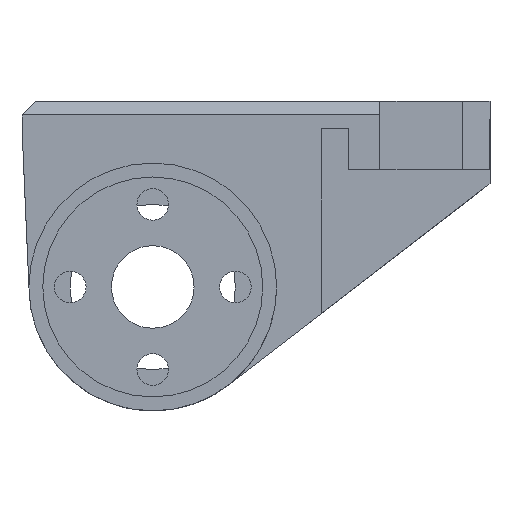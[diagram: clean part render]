
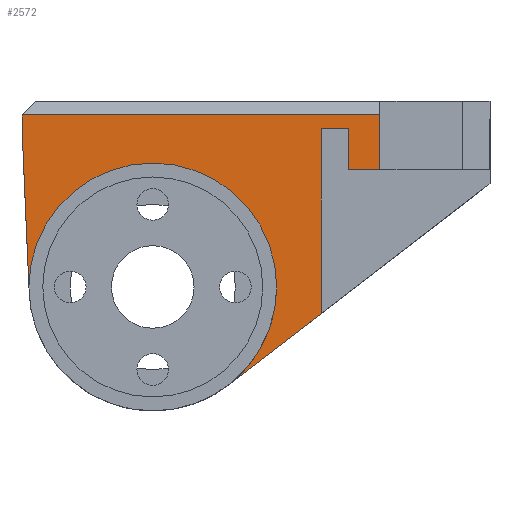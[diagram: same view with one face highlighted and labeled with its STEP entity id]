
A CAD part, front view. The second image highlights one B-rep face of the part: STEP entity #2572.
In plain terms, the highlighted planar face has unit normal (0, -1, 0).
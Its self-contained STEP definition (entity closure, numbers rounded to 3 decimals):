
#40 = VECTOR ( 'NONE', #47, 1000. ) ;
#47 = DIRECTION ( 'NONE',  ( -1., 0., 0. ) ) ;
#48 = ORIENTED_EDGE ( 'NONE', *, *, #455, .F. ) ;
#80 = VECTOR ( 'NONE', #154, 1000. ) ;
#142 = EDGE_CURVE ( 'NONE', #592, #2271, #1360, .T. ) ;
#151 = EDGE_LOOP ( 'NONE', ( #2108, #1454, #1436, #48, #651, #1042, #237, #1218, #834, #1567, #335 ) ) ;
#154 = DIRECTION ( 'NONE',  ( -1., 0., 0. ) ) ;
#184 = FACE_OUTER_BOUND ( 'NONE', #151, .T. ) ;
#221 = CARTESIAN_POINT ( 'NONE',  ( 6.73, -14., -4. ) ) ;
#237 = ORIENTED_EDGE ( 'NONE', *, *, #142, .F. ) ;
#301 = DIRECTION ( 'NONE',  ( 1., 0., 0. ) ) ;
#335 = ORIENTED_EDGE ( 'NONE', *, *, #2607, .F. ) ;
#392 = PLANE ( 'NONE',  #541 ) ;
#398 = VECTOR ( 'NONE', #2440, 1000. ) ;
#400 = VECTOR ( 'NONE', #2756, 1000. ) ;
#422 = VERTEX_POINT ( 'NONE', #1936 ) ;
#431 = EDGE_CURVE ( 'NONE', #766, #1358, #1114, .T. ) ;
#455 = EDGE_CURVE ( 'NONE', #1358, #1300, #2736, .T. ) ;
#478 = VERTEX_POINT ( 'NONE', #2606 ) ;
#488 = DIRECTION ( 'NONE',  ( -1., 0., 0. ) ) ;
#498 = AXIS2_PLACEMENT_3D ( 'NONE', #2459, #2671, #301 ) ;
#524 = EDGE_CURVE ( 'NONE', #1630, #1181, #675, .T. ) ;
#541 = AXIS2_PLACEMENT_3D ( 'NONE', #1118, #1746, #488 ) ;
#592 = VERTEX_POINT ( 'NONE', #2002 ) ;
#607 = CARTESIAN_POINT ( 'NONE',  ( -7.5, -14., 0. ) ) ;
#613 = LINE ( 'NONE', #1904, #400 ) ;
#636 = DIRECTION ( 'NONE',  ( 0., -1., 0. ) ) ;
#651 = ORIENTED_EDGE ( 'NONE', *, *, #431, .F. ) ;
#656 = CARTESIAN_POINT ( 'NONE',  ( -17., -14., -1. ) ) ;
#675 = LINE ( 'NONE', #1765, #2768 ) ;
#743 = CARTESIAN_POINT ( 'NONE',  ( -7.5, -14., -1. ) ) ;
#747 = CARTESIAN_POINT ( 'NONE',  ( -17., -14., -1. ) ) ;
#754 = EDGE_CURVE ( 'NONE', #422, #2351, #2564, .T. ) ;
#766 = VERTEX_POINT ( 'NONE', #1484 ) ;
#775 = EDGE_CURVE ( 'NONE', #478, #592, #613, .T. ) ;
#817 = LINE ( 'NONE', #607, #80 ) ;
#834 = ORIENTED_EDGE ( 'NONE', *, *, #2263, .F. ) ;
#1042 = ORIENTED_EDGE ( 'NONE', *, *, #2625, .F. ) ;
#1114 = CIRCLE ( 'NONE', #1783, 9. ) ;
#1118 = CARTESIAN_POINT ( 'NONE',  ( -7.5, -14., -12.5 ) ) ;
#1140 = CARTESIAN_POINT ( 'NONE',  ( -2.011, -14., -19.632 ) ) ;
#1152 = CARTESIAN_POINT ( 'NONE',  ( 17., -14., -5. ) ) ;
#1181 = VERTEX_POINT ( 'NONE', #1646 ) ;
#1218 = ORIENTED_EDGE ( 'NONE', *, *, #775, .F. ) ;
#1278 = DIRECTION ( 'NONE',  ( 1., 0., 0. ) ) ;
#1300 = VERTEX_POINT ( 'NONE', #1543 ) ;
#1304 = DIRECTION ( 'NONE',  ( -0.043, 0., 0.999 ) ) ;
#1358 = VERTEX_POINT ( 'NONE', #1971 ) ;
#1360 = LINE ( 'NONE', #1152, #2586 ) ;
#1436 = ORIENTED_EDGE ( 'NONE', *, *, #2623, .F. ) ;
#1454 = ORIENTED_EDGE ( 'NONE', *, *, #2046, .T. ) ;
#1456 = CARTESIAN_POINT ( 'NONE',  ( -7.5, -14., -12.5 ) ) ;
#1468 = VECTOR ( 'NONE', #1304, 1000. ) ;
#1476 = CIRCLE ( 'NONE', #498, 9. ) ;
#1484 = CARTESIAN_POINT ( 'NONE',  ( 1.5, -14., -12.5 ) ) ;
#1543 = CARTESIAN_POINT ( 'NONE',  ( -17., -14., -1. ) ) ;
#1563 = VERTEX_POINT ( 'NONE', #2054 ) ;
#1567 = ORIENTED_EDGE ( 'NONE', *, *, #754, .F. ) ;
#1630 = VERTEX_POINT ( 'NONE', #2752 ) ;
#1646 = CARTESIAN_POINT ( 'NONE',  ( 9., -14., -4. ) ) ;
#1679 = LINE ( 'NONE', #1985, #40 ) ;
#1746 = DIRECTION ( 'NONE',  ( 0., -1., 0. ) ) ;
#1756 = LINE ( 'NONE', #743, #2683 ) ;
#1765 = CARTESIAN_POINT ( 'NONE',  ( 9., -14., -12.5 ) ) ;
#1778 = DIRECTION ( 'NONE',  ( 0., 0., -1. ) ) ;
#1781 = DIRECTION ( 'NONE',  ( -0.792, 0., -0.61 ) ) ;
#1783 = AXIS2_PLACEMENT_3D ( 'NONE', #1456, #636, #1278 ) ;
#1830 = LINE ( 'NONE', #747, #398 ) ;
#1832 = VECTOR ( 'NONE', #2548, 1000. ) ;
#1904 = CARTESIAN_POINT ( 'NONE',  ( 4.75, -14., -12.5 ) ) ;
#1936 = CARTESIAN_POINT ( 'NONE',  ( 6.73, -14., -4. ) ) ;
#1971 = CARTESIAN_POINT ( 'NONE',  ( -16.5, -14., -12.5 ) ) ;
#1985 = CARTESIAN_POINT ( 'NONE',  ( 6.73, -14., -4. ) ) ;
#2002 = CARTESIAN_POINT ( 'NONE',  ( 4.75, -14., -14.429 ) ) ;
#2035 = CARTESIAN_POINT ( 'NONE',  ( 6.73, -14., -1. ) ) ;
#2046 = EDGE_CURVE ( 'NONE', #1630, #1563, #817, .T. ) ;
#2054 = CARTESIAN_POINT ( 'NONE',  ( -17., -14., 0. ) ) ;
#2108 = ORIENTED_EDGE ( 'NONE', *, *, #524, .F. ) ;
#2201 = DIRECTION ( 'NONE',  ( -1., 0., 0. ) ) ;
#2263 = EDGE_CURVE ( 'NONE', #2351, #478, #1756, .T. ) ;
#2271 = VERTEX_POINT ( 'NONE', #1140 ) ;
#2351 = VERTEX_POINT ( 'NONE', #2035 ) ;
#2440 = DIRECTION ( 'NONE',  ( 0., 0., 1. ) ) ;
#2459 = CARTESIAN_POINT ( 'NONE',  ( -7.5, -14., -12.5 ) ) ;
#2548 = DIRECTION ( 'NONE',  ( 0., 0., 1. ) ) ;
#2564 = LINE ( 'NONE', #221, #1832 ) ;
#2572 = ADVANCED_FACE ( 'NONE', ( #184 ), #392, .T. ) ;
#2586 = VECTOR ( 'NONE', #1781, 1000. ) ;
#2606 = CARTESIAN_POINT ( 'NONE',  ( 4.75, -14., -1. ) ) ;
#2607 = EDGE_CURVE ( 'NONE', #1181, #422, #1679, .T. ) ;
#2623 = EDGE_CURVE ( 'NONE', #1300, #1563, #1830, .T. ) ;
#2625 = EDGE_CURVE ( 'NONE', #2271, #766, #1476, .T. ) ;
#2671 = DIRECTION ( 'NONE',  ( 0., -1., 0. ) ) ;
#2683 = VECTOR ( 'NONE', #2201, 1000. ) ;
#2736 = LINE ( 'NONE', #656, #1468 ) ;
#2752 = CARTESIAN_POINT ( 'NONE',  ( 9., -14., 0. ) ) ;
#2756 = DIRECTION ( 'NONE',  ( 0., 0., -1. ) ) ;
#2768 = VECTOR ( 'NONE', #1778, 1000. ) ;
